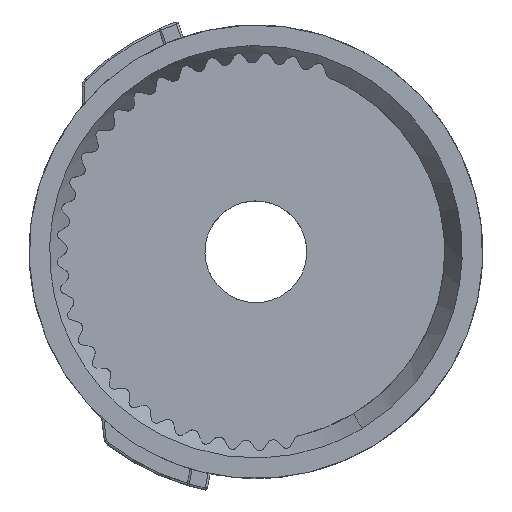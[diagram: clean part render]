
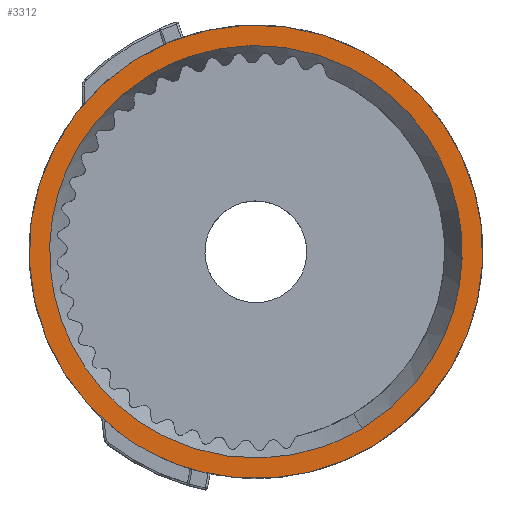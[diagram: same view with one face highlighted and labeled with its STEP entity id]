
A CAD part, left-side view. The second image highlights one B-rep face of the part: STEP entity #3312.
In plain terms, the highlighted planar face has unit normal (-1, -0.001, 0.001).
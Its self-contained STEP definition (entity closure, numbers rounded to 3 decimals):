
#1465=DIRECTION('Axis2P3D Direction',(1.,0.,-0.001)) ;
#1943=DIRECTION('Axis2P3D Direction',(1.,0.,-0.001)) ;
#3220=DIRECTION('Axis2P3D Direction',(1.,0.,-0.001)) ;
#3221=DIRECTION('Axis2P3D XDirection',(0.001,0.516,0.857)) ;
#1440=CARTESIAN_POINT('Vertex',(2039.511,51.582,435.628)) ;
#1446=CARTESIAN_POINT('Control Point',(2039.511,51.582,435.628)) ;
#1447=CARTESIAN_POINT('Control Point',(2039.51,48.923,433.575)) ;
#1448=CARTESIAN_POINT('Control Point',(2039.509,46.645,431.03)) ;
#1449=CARTESIAN_POINT('Control Point',(2039.507,44.868,428.087)) ;
#1450=CARTESIAN_POINT('Control Point',(2039.502,42.485,421.685)) ;
#1451=CARTESIAN_POINT('Control Point',(2039.495,42.55,414.854)) ;
#1452=CARTESIAN_POINT('Control Point',(2039.492,43.222,411.482)) ;
#1453=CARTESIAN_POINT('Control Point',(2039.484,45.778,405.147)) ;
#1454=CARTESIAN_POINT('Control Point',(2039.477,50.432,400.145)) ;
#1455=CARTESIAN_POINT('Control Point',(2039.474,53.201,398.108)) ;
#1456=CARTESIAN_POINT('Control Point',(2039.468,59.36,395.152)) ;
#1457=CARTESIAN_POINT('Control Point',(2039.464,66.169,394.595)) ;
#1458=CARTESIAN_POINT('Control Point',(2039.463,69.588,394.957)) ;
#1459=CARTESIAN_POINT('Control Point',(2039.462,72.858,395.942)) ;
#1460=CARTESIAN_POINT('Control Point',(2039.462,75.845,397.479)) ;
#1461=CARTESIAN_POINT('Vertex',(2039.462,75.845,397.479)) ;
#1464=CARTESIAN_POINT('Axis2P3D Location',(2039.487,65.457,417.662)) ;
#1468=CARTESIAN_POINT('Vertex',(2039.463,79.332,399.697)) ;
#1942=CARTESIAN_POINT('Axis2P3D Location',(2039.487,65.457,417.662)) ;
#1946=CARTESIAN_POINT('Vertex',(2039.511,55.069,437.846)) ;
#1950=CARTESIAN_POINT('Control Point',(2039.511,55.069,437.846)) ;
#1951=CARTESIAN_POINT('Control Point',(2039.511,53.842,437.215)) ;
#1952=CARTESIAN_POINT('Control Point',(2039.511,52.674,436.471)) ;
#1953=CARTESIAN_POINT('Control Point',(2039.511,51.582,435.628)) ;
#3219=CARTESIAN_POINT('Axis2P3D Location',(2039.487,65.457,417.662)) ;
#3231=CARTESIAN_POINT('Control Point',(2039.475,54.804,399.976)) ;
#3232=CARTESIAN_POINT('Control Point',(2039.477,53.255,400.91)) ;
#3233=CARTESIAN_POINT('Control Point',(2039.478,51.807,402.013)) ;
#3234=CARTESIAN_POINT('Control Point',(2039.48,50.487,403.271)) ;
#3235=CARTESIAN_POINT('Control Point',(2039.484,48.017,406.205)) ;
#3236=CARTESIAN_POINT('Control Point',(2039.488,46.279,409.629)) ;
#3237=CARTESIAN_POINT('Control Point',(2039.491,45.588,411.531)) ;
#3238=CARTESIAN_POINT('Control Point',(2039.495,44.684,415.464)) ;
#3239=CARTESIAN_POINT('Control Point',(2039.499,44.745,419.5)) ;
#3240=CARTESIAN_POINT('Control Point',(2039.5,45.022,421.505)) ;
#3241=CARTESIAN_POINT('Control Point',(2039.504,46.056,425.406)) ;
#3242=CARTESIAN_POINT('Control Point',(2039.506,47.993,428.947)) ;
#3243=CARTESIAN_POINT('Control Point',(2039.507,49.172,430.591)) ;
#3244=CARTESIAN_POINT('Control Point',(2039.508,51.189,432.781)) ;
#3245=CARTESIAN_POINT('Control Point',(2039.509,53.549,434.569)) ;
#3246=CARTESIAN_POINT('Control Point',(2039.509,54.341,435.1)) ;
#3247=CARTESIAN_POINT('Control Point',(2039.509,55.162,435.584)) ;
#3248=CARTESIAN_POINT('Control Point',(2039.509,56.009,436.02)) ;
#3249=CARTESIAN_POINT('Vertex',(2039.475,54.804,399.976)) ;
#3251=CARTESIAN_POINT('Vertex',(2039.509,56.009,436.02)) ;
#3255=CARTESIAN_POINT('Control Point',(2039.464,74.905,399.305)) ;
#3256=CARTESIAN_POINT('Control Point',(2039.464,73.124,398.388)) ;
#3257=CARTESIAN_POINT('Control Point',(2039.465,71.231,397.687)) ;
#3258=CARTESIAN_POINT('Control Point',(2039.465,69.262,397.221)) ;
#3259=CARTESIAN_POINT('Control Point',(2039.467,65.251,396.774)) ;
#3260=CARTESIAN_POINT('Control Point',(2039.469,61.249,397.3)) ;
#3261=CARTESIAN_POINT('Control Point',(2039.471,59.29,397.805)) ;
#3262=CARTESIAN_POINT('Control Point',(2039.473,57.229,398.615)) ;
#3263=CARTESIAN_POINT('Control Point',(2039.474,55.308,399.681)) ;
#3264=CARTESIAN_POINT('Control Point',(2039.475,55.139,399.778)) ;
#3265=CARTESIAN_POINT('Control Point',(2039.475,54.971,399.876)) ;
#3266=CARTESIAN_POINT('Control Point',(2039.475,54.804,399.976)) ;
#3267=CARTESIAN_POINT('Vertex',(2039.464,74.905,399.305)) ;
#3271=CARTESIAN_POINT('Control Point',(2039.498,76.109,435.348)) ;
#3272=CARTESIAN_POINT('Control Point',(2039.497,77.659,434.415)) ;
#3273=CARTESIAN_POINT('Control Point',(2039.495,79.106,433.312)) ;
#3274=CARTESIAN_POINT('Control Point',(2039.493,80.427,432.054)) ;
#3275=CARTESIAN_POINT('Control Point',(2039.489,82.896,429.12)) ;
#3276=CARTESIAN_POINT('Control Point',(2039.485,84.635,425.696)) ;
#3277=CARTESIAN_POINT('Control Point',(2039.483,85.325,423.794)) ;
#3278=CARTESIAN_POINT('Control Point',(2039.479,86.23,419.86)) ;
#3279=CARTESIAN_POINT('Control Point',(2039.475,86.168,415.825)) ;
#3280=CARTESIAN_POINT('Control Point',(2039.473,85.892,413.82)) ;
#3281=CARTESIAN_POINT('Control Point',(2039.47,84.858,409.919)) ;
#3282=CARTESIAN_POINT('Control Point',(2039.467,82.921,406.378)) ;
#3283=CARTESIAN_POINT('Control Point',(2039.466,81.742,404.734)) ;
#3284=CARTESIAN_POINT('Control Point',(2039.465,79.725,402.544)) ;
#3285=CARTESIAN_POINT('Control Point',(2039.465,77.365,400.756)) ;
#3286=CARTESIAN_POINT('Control Point',(2039.465,76.573,400.225)) ;
#3287=CARTESIAN_POINT('Control Point',(2039.464,75.751,399.74)) ;
#3288=CARTESIAN_POINT('Control Point',(2039.464,74.905,399.305)) ;
#3289=CARTESIAN_POINT('Vertex',(2039.498,76.109,435.348)) ;
#3293=CARTESIAN_POINT('Control Point',(2039.509,56.009,436.02)) ;
#3294=CARTESIAN_POINT('Control Point',(2039.509,57.79,436.937)) ;
#3295=CARTESIAN_POINT('Control Point',(2039.509,59.683,437.637)) ;
#3296=CARTESIAN_POINT('Control Point',(2039.508,61.652,438.104)) ;
#3297=CARTESIAN_POINT('Control Point',(2039.507,65.663,438.551)) ;
#3298=CARTESIAN_POINT('Control Point',(2039.504,69.665,438.025)) ;
#3299=CARTESIAN_POINT('Control Point',(2039.503,71.624,437.52)) ;
#3300=CARTESIAN_POINT('Control Point',(2039.501,73.685,436.71)) ;
#3301=CARTESIAN_POINT('Control Point',(2039.499,75.606,435.643)) ;
#3302=CARTESIAN_POINT('Control Point',(2039.499,75.775,435.547)) ;
#3303=CARTESIAN_POINT('Control Point',(2039.499,75.943,435.449)) ;
#3304=CARTESIAN_POINT('Control Point',(2039.498,76.109,435.348)) ;
#1466=AXIS2_PLACEMENT_3D('Circle Axis2P3D',#1464,#1465,$) ;
#1944=AXIS2_PLACEMENT_3D('Circle Axis2P3D',#1942,#1943,$) ;
#3222=AXIS2_PLACEMENT_3D('Plane Axis2P3D',#3219,#3220,#3221) ;
#3311=FACE_BOUND('',#3306,.T.) ;
#1463=EDGE_CURVE('',#1441,#1462,#1445,.T.) ;
#1470=EDGE_CURVE('',#1462,#1469,#1467,.T.) ;
#1948=EDGE_CURVE('',#1469,#1947,#1945,.T.) ;
#1954=EDGE_CURVE('',#1947,#1441,#1949,.T.) ;
#3253=EDGE_CURVE('',#3250,#3252,#3230,.T.) ;
#3269=EDGE_CURVE('',#3268,#3250,#3254,.T.) ;
#3291=EDGE_CURVE('',#3290,#3268,#3270,.T.) ;
#3305=EDGE_CURVE('',#3252,#3290,#3292,.T.) ;
#3223=PLANE('Plane',#3222) ;
#3225=ORIENTED_EDGE('',*,*,#1948,.F.) ;
#3226=ORIENTED_EDGE('',*,*,#1470,.F.) ;
#3227=ORIENTED_EDGE('',*,*,#1463,.F.) ;
#3228=ORIENTED_EDGE('',*,*,#1954,.F.) ;
#3307=ORIENTED_EDGE('',*,*,#3253,.F.) ;
#3308=ORIENTED_EDGE('',*,*,#3269,.F.) ;
#3309=ORIENTED_EDGE('',*,*,#3291,.F.) ;
#3310=ORIENTED_EDGE('',*,*,#3305,.F.) ;
#3312=ADVANCED_FACE('20200526\X2\66F465B0\X0\',(#3229,#3311),#3223,.F.) ;
#1467=CIRCLE('generated circle',#1466,22.7) ;
#1945=CIRCLE('generated circle',#1944,22.7) ;
#1441=VERTEX_POINT('',#1440) ;
#1462=VERTEX_POINT('',#1461) ;
#1469=VERTEX_POINT('',#1468) ;
#1947=VERTEX_POINT('',#1946) ;
#3250=VERTEX_POINT('',#3249) ;
#3252=VERTEX_POINT('',#3251) ;
#3268=VERTEX_POINT('',#3267) ;
#3290=VERTEX_POINT('',#3289) ;
#1445=B_SPLINE_CURVE_WITH_KNOTS('',5,(#1446,#1447,#1448,#1449,#1450,#1451,#1452,#1453,#1454,#1455,#1456,#1457,#1458,#1459,#1460),.UNSPECIFIED.,.F.,.U.,(6,3,3,3,6),(-33.588,-16.794,0.,16.794,33.588),.UNSPECIFIED.) ;
#1949=B_SPLINE_CURVE_WITH_KNOTS('',3,(#1950,#1951,#1952,#1953),.UNSPECIFIED.,.F.,.U.,(4,4),(-2.069,2.069),.UNSPECIFIED.) ;
#3230=B_SPLINE_CURVE_WITH_KNOTS('',5,(#3231,#3232,#3233,#3234,#3235,#3236,#3237,#3238,#3239,#3240,#3241,#3242,#3243,#3244,#3245,#3246,#3247,#3248),.UNSPECIFIED.,.F.,.U.,(6,3,3,3,3,6),(29.707,42.498,56.664,70.83,84.996,91.728),.UNSPECIFIED.) ;
#3254=B_SPLINE_CURVE_WITH_KNOTS('',5,(#3255,#3256,#3257,#3258,#3259,#3260,#3261,#3262,#3263,#3264,#3265,#3266),.UNSPECIFIED.,.F.,.U.,(6,3,3,6),(0.,14.166,28.332,29.707),.UNSPECIFIED.) ;
#3270=B_SPLINE_CURVE_WITH_KNOTS('',5,(#3271,#3272,#3273,#3274,#3275,#3276,#3277,#3278,#3279,#3280,#3281,#3282,#3283,#3284,#3285,#3286,#3287,#3288),.UNSPECIFIED.,.F.,.U.,(6,3,3,3,3,6),(29.707,42.498,56.664,70.83,84.996,91.728),.UNSPECIFIED.) ;
#3292=B_SPLINE_CURVE_WITH_KNOTS('',5,(#3293,#3294,#3295,#3296,#3297,#3298,#3299,#3300,#3301,#3302,#3303,#3304),.UNSPECIFIED.,.F.,.U.,(6,3,3,6),(0.,14.166,28.332,29.707),.UNSPECIFIED.) ;
#3224=EDGE_LOOP('',(#3225,#3226,#3227,#3228)) ;
#3306=EDGE_LOOP('',(#3307,#3308,#3309,#3310)) ;
#3229=FACE_OUTER_BOUND('',#3224,.T.) ;
